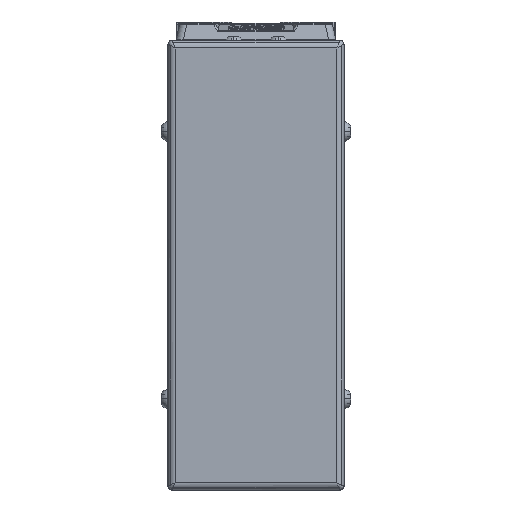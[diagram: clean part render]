
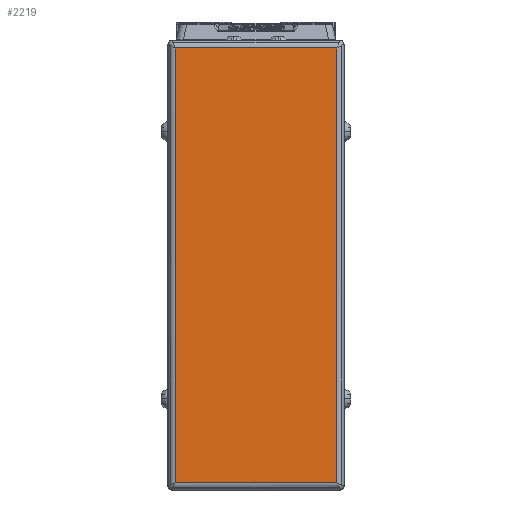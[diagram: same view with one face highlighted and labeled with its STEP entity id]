
A CAD part, left-side view. The second image highlights one B-rep face of the part: STEP entity #2219.
In plain terms, the highlighted planar face has unit normal (-1, 0, 0).
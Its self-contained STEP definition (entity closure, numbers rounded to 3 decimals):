
#2219=ADVANCED_FACE('',(#5865),#5866,.T.);
#5865=FACE_OUTER_BOUND('',#11506,.T.);
#5866=PLANE('',#11507);
#11506=EDGE_LOOP('',(#20399,#20400,#20401,#20402));
#11507=AXIS2_PLACEMENT_3D('',#20403,#20404,#20405);
#20399=ORIENTED_EDGE('',*,*,#35350,.F.);
#20400=ORIENTED_EDGE('',*,*,#35351,.F.);
#20401=ORIENTED_EDGE('',*,*,#35042,.F.);
#20402=ORIENTED_EDGE('',*,*,#35352,.F.);
#20403=CARTESIAN_POINT('',(-48.,0.,-42.5));
#20404=DIRECTION('',(-1.0,0.,0.));
#20405=DIRECTION('',(0.,0.,1.0));
#35042=EDGE_CURVE('',#41442,#41444,#41445,.T.);
#35350=EDGE_CURVE('',#41986,#41987,#41988,.T.);
#35351=EDGE_CURVE('',#41444,#41986,#41989,.T.);
#35352=EDGE_CURVE('',#41987,#41442,#41990,.T.);
#41442=VERTEX_POINT('',#50617);
#41444=VERTEX_POINT('',#50619);
#41445=LINE('',#50620,#50621);
#41986=VERTEX_POINT('',#51375);
#41987=VERTEX_POINT('',#51376);
#41988=LINE('',#51377,#51378);
#41989=LINE('',#51379,#51380);
#41990=LINE('',#51381,#51382);
#50617=CARTESIAN_POINT('',(-48.,-21.7,-101.0));
#50619=CARTESIAN_POINT('',(-48.,21.7,-101.0));
#50620=CARTESIAN_POINT('',(-48.,0.,-101.0));
#50621=VECTOR('',#63144,10.0);
#51375=CARTESIAN_POINT('',(-48.,21.7,16.));
#51376=CARTESIAN_POINT('',(-48.,-21.7,16.));
#51377=CARTESIAN_POINT('',(-48.,0.,16.));
#51378=VECTOR('',#63589,10.0);
#51379=CARTESIAN_POINT('',(-48.,21.7,-42.5));
#51380=VECTOR('',#63590,10.0);
#51381=CARTESIAN_POINT('',(-48.,-21.7,-42.5));
#51382=VECTOR('',#63591,10.0);
#63144=DIRECTION('',(0.,1.0,0.));
#63589=DIRECTION('',(0.,-1.0,0.));
#63590=DIRECTION('',(0.,0.,1.0));
#63591=DIRECTION('',(0.,0.,-1.0));
